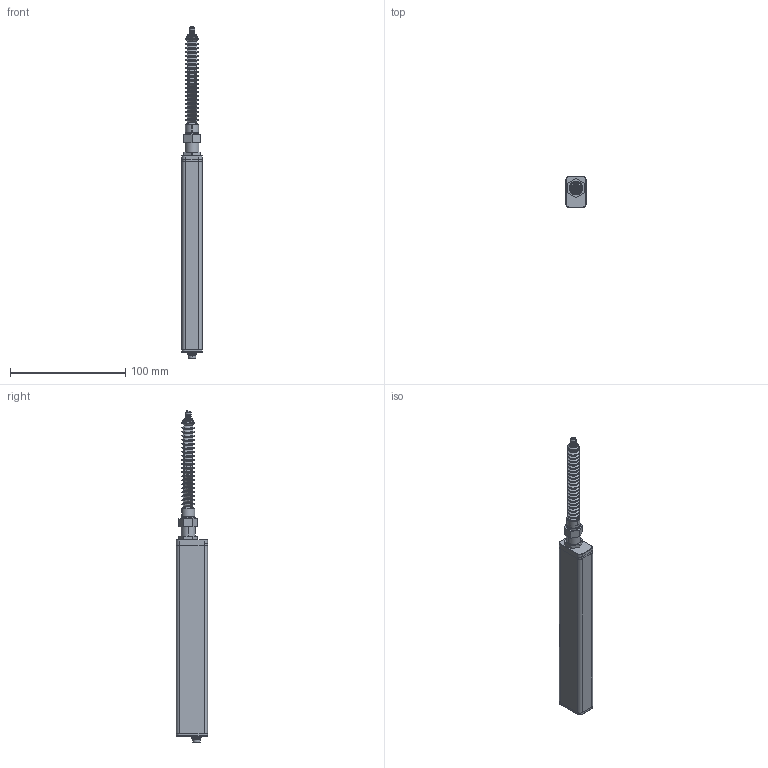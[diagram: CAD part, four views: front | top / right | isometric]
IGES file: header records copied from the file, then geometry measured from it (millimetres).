
Start section: SolidWorks IGES file using analytic representation for surfaces
Global section: file name: S:\秘　SolidWorks\外観データ\Iges\SA-S550_iges_01.IGS; native system: SolidWorks 2016; preprocessor: SolidWorks 2016; author: mizukoshi; date: 200127.090558; units: millimetre
Bounding box: 17.5 x 27.1 x 287.92 mm (x, y, z)
Surface area: 24701.5 mm2 (no closed solid volume)
Topology: 0 solids, 0 shells, 453 faces, 3665 edges, 3654 vertices
Faces by surface type: bspline 254, revolution 199
